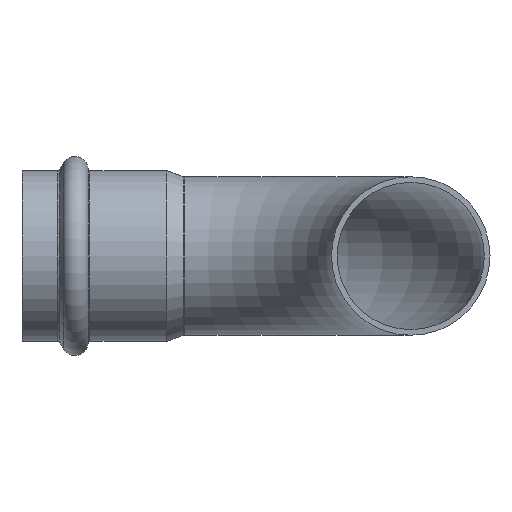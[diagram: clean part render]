
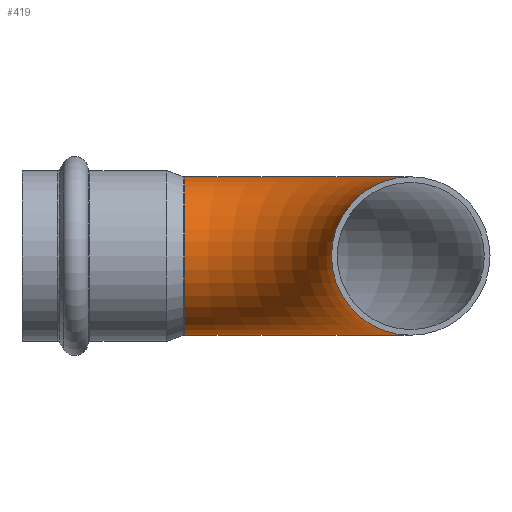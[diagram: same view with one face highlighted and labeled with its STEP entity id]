
A CAD part, front view. The second image highlights one B-rep face of the part: STEP entity #419.
In plain terms, the highlighted toroidal (fillet/blend) face has major radius 60 mm and minor radius 21 mm.
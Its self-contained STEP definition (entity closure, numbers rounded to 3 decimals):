
#388=CARTESIAN_POINT('',(60.,-60.,-21.0));
#389=VERTEX_POINT('',#388);
#390=CARTESIAN_POINT('',(60.,-60.,0.0));
#391=DIRECTION('',(0.0,1.0,0.0));
#392=DIRECTION('',(0.0,0.0,1.0));
#393=AXIS2_PLACEMENT_3D('',#390,#391,#392);
#394=CIRCLE('',#393,21.0);
#395=EDGE_CURVE('',#389,#389,#394,.T.);
#400=CARTESIAN_POINT('',(0.,-60.0,0.0));
#401=DIRECTION('',(0.0,0.0,-1.0));
#402=DIRECTION('',(-1.0,0.0,0.0));
#403=AXIS2_PLACEMENT_3D('',#400,#401,#402);
#404=TOROIDAL_SURFACE('',#403,60.0,21.0);
#405=ORIENTED_EDGE('',*,*,#395,.T.);
#406=EDGE_LOOP('',(#405));
#407=FACE_OUTER_BOUND('',#406,.T.);
#408=CARTESIAN_POINT('',(0.,21.0,0.0));
#409=VERTEX_POINT('',#408);
#410=CARTESIAN_POINT('',(0.,0.,0.0));
#411=DIRECTION('',(1.0,0.0,0.0));
#412=DIRECTION('',(0.0,1.0,0.0));
#413=AXIS2_PLACEMENT_3D('',#410,#411,#412);
#414=CIRCLE('',#413,21.0);
#415=EDGE_CURVE('',#409,#409,#414,.T.);
#416=ORIENTED_EDGE('',*,*,#415,.T.);
#417=EDGE_LOOP('',(#416));
#418=FACE_BOUND('',#417,.T.);
#419=ADVANCED_FACE('',(#407,#418),#404,.T.);
